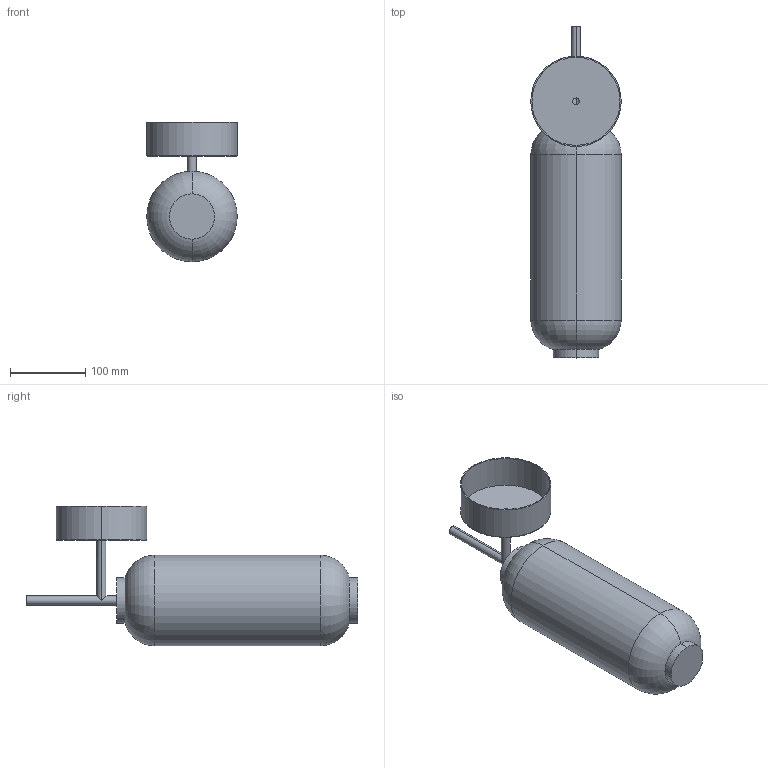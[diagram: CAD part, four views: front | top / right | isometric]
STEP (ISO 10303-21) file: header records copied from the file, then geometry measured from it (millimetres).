
FILE_DESCRIPTION (( 'STEP AP214' ), '1' );
FILE_NAME ('ELMA_AU1312.STEP', '2026-06-05T08:07:08', ( '' ), ( '' ), 'SwSTEP 2.0', 'SolidWorks 2023', '' );
FILE_SCHEMA (( 'AUTOMOTIVE_DESIGN' ));
Length unit declared in the file: inch
Products named in the file (1): ELMA_AU1312
Bounding box: 120 x 440 x 184.96 mm (x, y, z)
Volume: 1784095.6 mm3; surface area: 370090.5 mm2
Topology: 4 solids, 4 shells, 57 faces, 112 edges, 68 vertices
Faces by surface type: cylinder 26, torus 16, plane 15
Entity records: 1542 total; most frequent: DIRECTION 296, CARTESIAN_POINT 262, ORIENTED_EDGE 224, AXIS2_PLACEMENT_3D 134, EDGE_CURVE 112, CIRCLE 76, VERTEX_POINT 68, EDGE_LOOP 62
